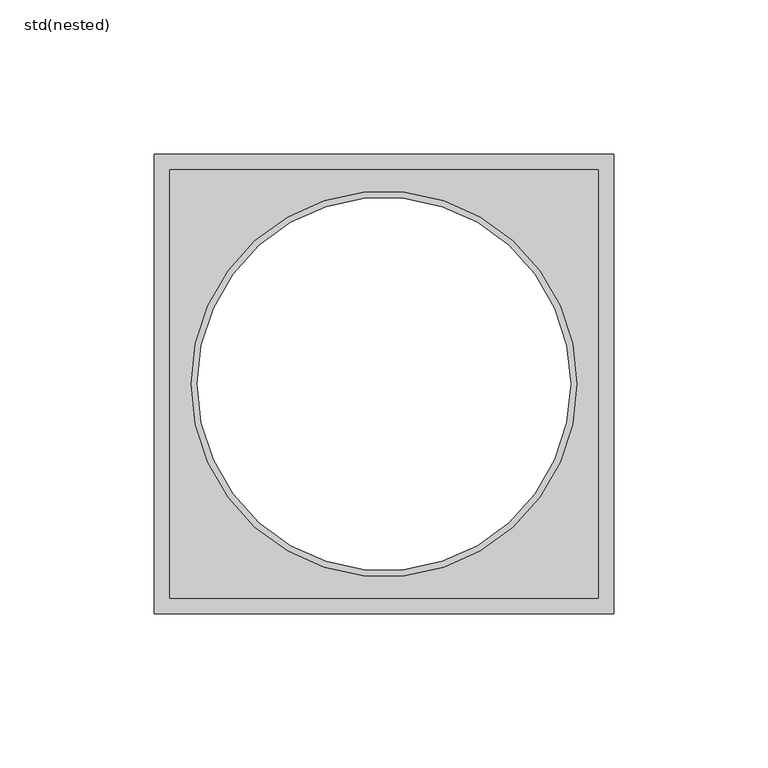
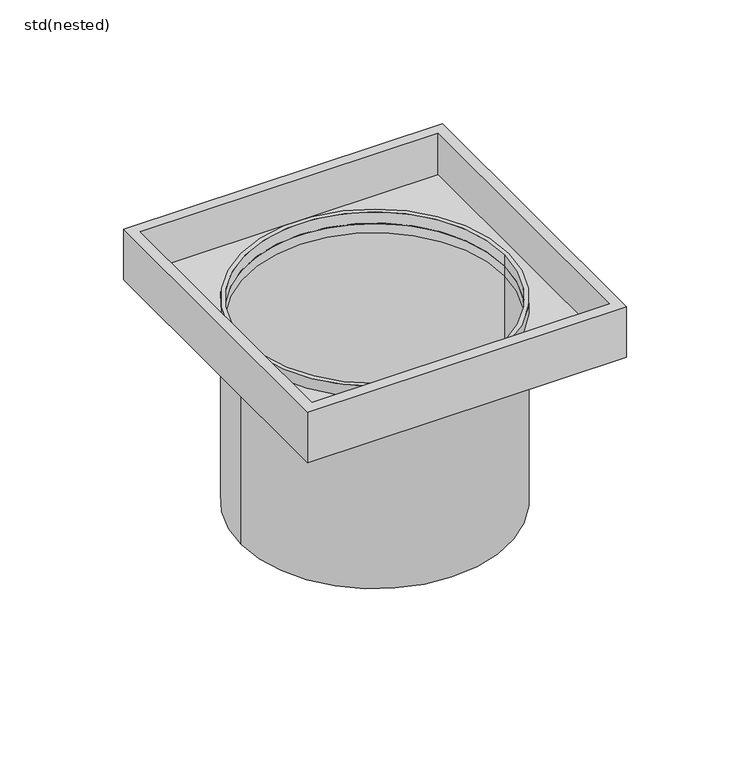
"""IFC4 building model written with IfcOpenShell, lengths in millimetres: sanitary terminal geometry, ZZZ_do_not_use_PF_UN_top section without grating_ACO : std(nested)."""

from ifc_helpers import new_model, si_unit, point, frame, origin, origin_2d, place, context, project, spatial, polyline, circle_curve, trimmed, segment, composite_curve, outline, extrude, source, transform, mapped, element, save


def std_nested_e99c1087(model_context):
    return source(origin(), model_context, "Body", "SweptSolid", [
        extrude(outline(polyline([(69.5, 69.5), (69.5, -69.5), (-69.5, -69.5), (-69.5, 69.5), (69.5, 69.5)]), holes=[composite_curve([segment(trimmed(circle_curve(origin_2d(), 60.5), [point((-60.5, 0.0))], [point((60.5, 0.0))], True, "CARTESIAN"), True, "CONTINUOUS"), segment(trimmed(circle_curve(origin_2d(), 60.5), [point((60.5, 0.0))], [point((-60.5, 0.0))], True, "CARTESIAN"), True, "CONTINUOUS")], self_intersect=False)]), frame((0.0, 0.0, -25.0), z_axis=(0.0, 0.0, 1.0), x_axis=(1.0, 0.0, 0.0)), (0.0, 0.0, 1.0), 4.5544571),
        extrude(outline(polyline([(74.5, 74.5), (74.5, -74.5), (-74.5, -74.5), (-74.5, 74.5), (74.5, 74.5)]), holes=[polyline([(69.5, 69.5), (-69.5, 69.5), (-69.5, -69.5), (69.5, -69.5), (69.5, 69.5)])]), frame((0.0, 0.0, -25.0), z_axis=(0.0, 0.0, 1.0), x_axis=(1.0, 0.0, 0.0)), (0.0, 0.0, 1.0), 25.0),
        extrude(outline(composite_curve([segment(trimmed(circle_curve(origin_2d(), 62.5), [point((-62.5, 0.0))], [point((62.5, 0.0))], False, "CARTESIAN"), True, "CONTINUOUS"), segment(trimmed(circle_curve(origin_2d(), 62.5), [point((62.5, 0.0))], [point((-62.5, 0.0))], False, "CARTESIAN"), True, "CONTINUOUS")], self_intersect=False), holes=[composite_curve([segment(trimmed(circle_curve(origin_2d(), 60.5), [point((-60.5, 0.0))], [point((60.5, 0.0))], True, "CARTESIAN"), True, "CONTINUOUS"), segment(trimmed(circle_curve(origin_2d(), 60.5), [point((60.5, 0.0))], [point((-60.5, 0.0))], True, "CARTESIAN"), True, "CONTINUOUS")], self_intersect=False)]), frame((0.0, 0.0, -114.6892984), z_axis=(0.0, 0.0, 1.0), x_axis=(1.0, 0.0, 0.0)), (0.0, 0.0, 1.0), 100.0),
    ])


if __name__ == "__main__":
    model = new_model("IFC4")
    model_context = context("Model", 3, world=origin())
    ifc_project = project(units=[si_unit("LENGTHUNIT", "METRE", prefix="MILLI")], contexts=[model_context])
    site = spatial("IfcSite", under=ifc_project)
    building = spatial("IfcBuilding", under=site)
    placement = place(None, origin())
    std_nested_shape = std_nested_e99c1087(model_context)
    element("IfcSanitaryTerminal", 1, ObjectType="ZZZ_do_not_use_PF_UN_top section without grating_ACO : std(nested)", at=placement, inside=building, context=model_context, shape_type="MappedRepresentation", body=[
        mapped(std_nested_shape, transform((0.0, 0.0, 0.0), x_axis=(1.0, 0.0, 0.0), y_axis=(0.0, 1.0, 0.0), z_axis=(0.0, 0.0, 1.0))),
    ])
    save(model, "model.ifc")
